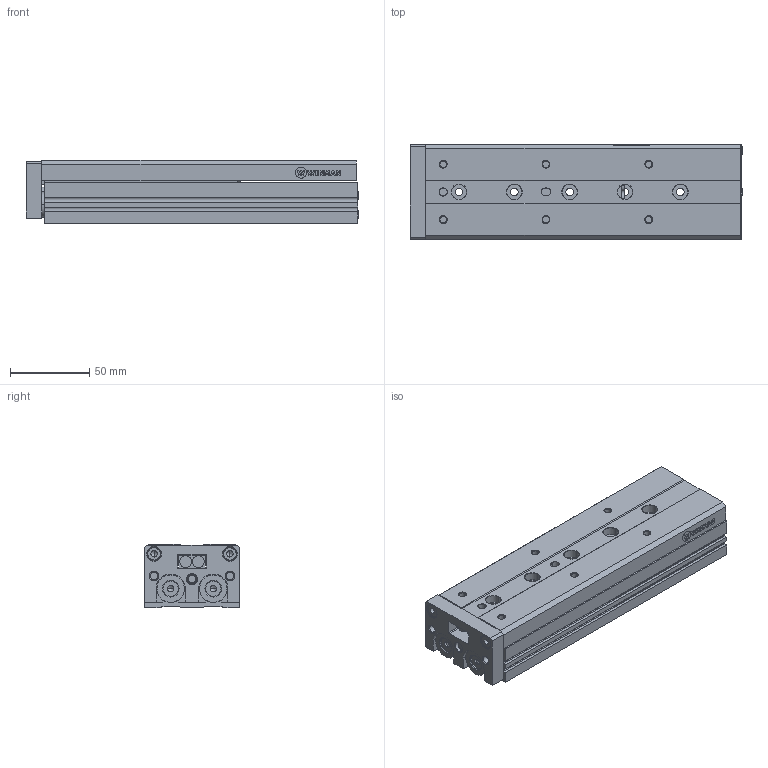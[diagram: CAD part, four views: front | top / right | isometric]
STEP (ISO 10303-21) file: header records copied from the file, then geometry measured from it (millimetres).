
FILE_DESCRIPTION (( 'STEP AP214' ), '1' );
FILE_NAME ('WLS-016-0100S (MDMY).STEP', '2017-02-11T06:17:41', ( 'Hidtek' ), ( '' ), 'SwSTEP 2.0', 'SolidWorks 2016', '' );
FILE_SCHEMA (( 'AUTOMOTIVE_DESIGN' ));
Length unit declared in the file: millimetre
Products named in the file (3): WLS16X100-S(0)-rod; WLS16X100-S(0)-body; WLS-016-0100S (MDMY)
Assembly tree (2 placements, depth 2):
  WLS-016-0100S (MDMY)
    WLS16X100-S(0)-body
    WLS16X100-S(0)-rod
Bounding box: 210 x 60 x 40 mm (x, y, z)
Volume: 389053.3 mm3; surface area: 119423.8 mm2
Topology: 2 solids, 2 shells, 528 faces, 1310 edges, 836 vertices
Faces by surface type: plane 250, cylinder 178, cone 94, bspline 6
Entity records: 16855 total; most frequent: DIRECTION 2813, CARTESIAN_POINT 2806, ORIENTED_EDGE 2588, EDGE_CURVE 1294, AXIS2_PLACEMENT_3D 1003, VERTEX_POINT 836, VECTOR 807, LINE 807
